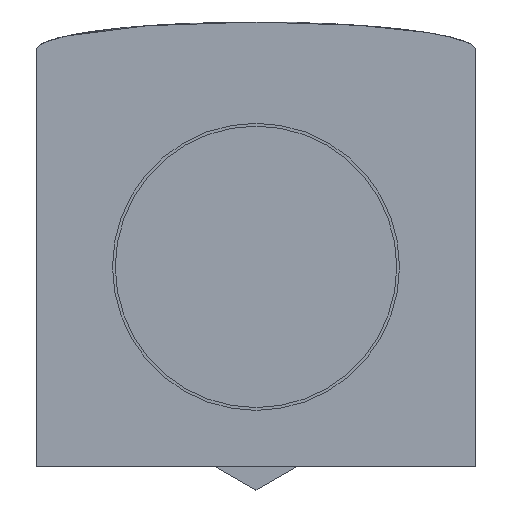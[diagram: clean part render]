
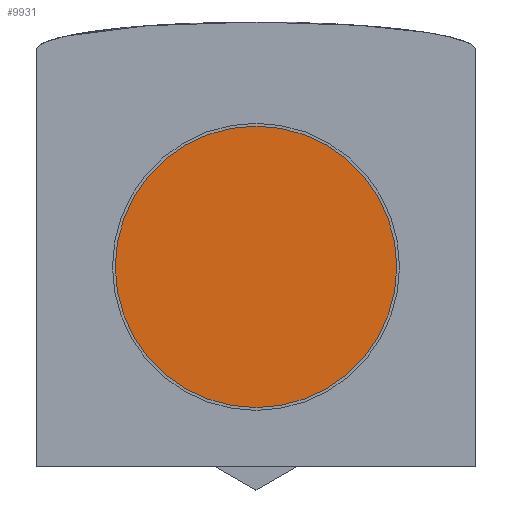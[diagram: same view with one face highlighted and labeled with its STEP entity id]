
A CAD part, front view. The second image highlights one B-rep face of the part: STEP entity #9931.
In plain terms, the highlighted planar face has unit normal (0, -1, 0).
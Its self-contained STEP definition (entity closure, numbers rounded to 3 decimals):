
#311 = CARTESIAN_POINT ( 'NONE',  ( 0., -24., -8. ) ) ;
#387 = FACE_OUTER_BOUND ( 'NONE', #5495, .T. ) ;
#391 = CIRCLE ( 'NONE', #8287, 10. ) ;
#1843 = DIRECTION ( 'NONE',  ( 0., 1., 0. ) ) ;
#2151 = CARTESIAN_POINT ( 'NONE',  ( 0., -24., 2. ) ) ;
#2559 = CARTESIAN_POINT ( 'NONE',  ( 0., -24., 12. ) ) ;
#2837 = CARTESIAN_POINT ( 'NONE',  ( 0., -24., 2. ) ) ;
#3007 = ORIENTED_EDGE ( 'NONE', *, *, #6741, .F. ) ;
#3119 = DIRECTION ( 'NONE',  ( 0., 1., 0. ) ) ;
#3356 = PLANE ( 'NONE',  #5505 ) ;
#3466 = CIRCLE ( 'NONE', #5232, 10. ) ;
#5023 = DIRECTION ( 'NONE',  ( 0., 0., 1. ) ) ;
#5195 = VERTEX_POINT ( 'NONE', #2559 ) ;
#5232 = AXIS2_PLACEMENT_3D ( 'NONE', #2151, #9227, #9133 ) ;
#5495 = EDGE_LOOP ( 'NONE', ( #5615, #3007 ) ) ;
#5505 = AXIS2_PLACEMENT_3D ( 'NONE', #9567, #1843, #5023 ) ;
#5615 = ORIENTED_EDGE ( 'NONE', *, *, #6289, .F. ) ;
#6289 = EDGE_CURVE ( 'NONE', #5195, #7747, #391, .T. ) ;
#6741 = EDGE_CURVE ( 'NONE', #7747, #5195, #3466, .T. ) ;
#7747 = VERTEX_POINT ( 'NONE', #311 ) ;
#8156 = DIRECTION ( 'NONE',  ( 0., 0., 1. ) ) ;
#8287 = AXIS2_PLACEMENT_3D ( 'NONE', #2837, #3119, #8156 ) ;
#9133 = DIRECTION ( 'NONE',  ( 0., 0., 1. ) ) ;
#9227 = DIRECTION ( 'NONE',  ( 0., 1., 0. ) ) ;
#9567 = CARTESIAN_POINT ( 'NONE',  ( 0., -24., 12. ) ) ;
#9931 = ADVANCED_FACE ( 'NONE', ( #387 ), #3356, .F. ) ;
